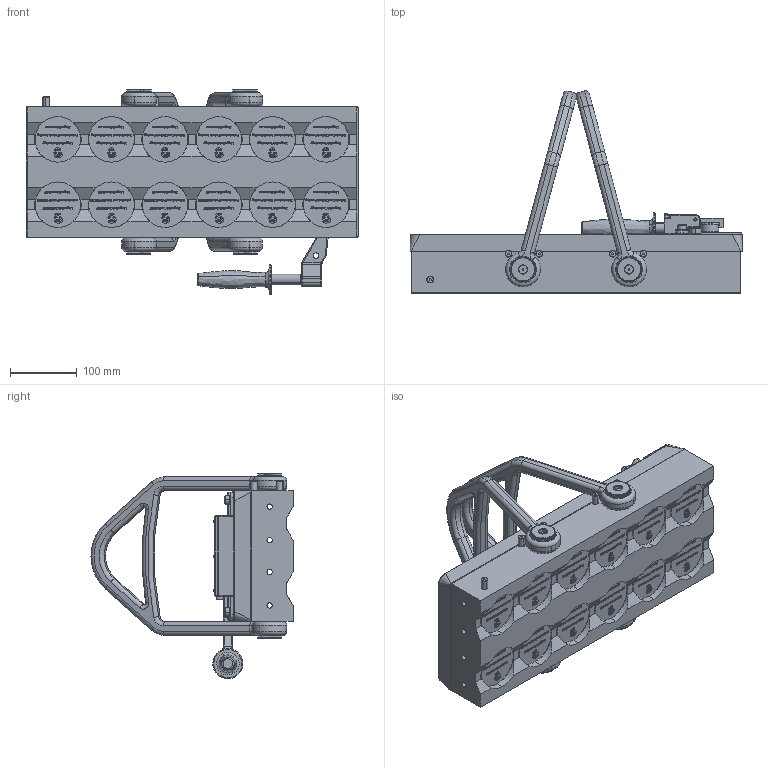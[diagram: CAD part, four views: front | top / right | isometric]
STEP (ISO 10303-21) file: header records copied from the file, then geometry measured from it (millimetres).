
FILE_DESCRIPTION (( 'STEP AP203' ), '1' );
FILE_NAME ('8000549_p.STEP', '2019-09-03T16:23:39', ( '' ), ( '' ), 'SwSTEP 2.0', 'SolidWorks 2018', '' );
FILE_SCHEMA (( 'CONFIG_CONTROL_DESIGN' ));
Products named in the file (1): 8000549_p
Bounding box: 496 x 302 x 306.78 mm (x, y, z)
Surface area: 619476.2 mm2 (no closed solid volume)
Topology: 0 solids, 516 shells, 3150 faces, 20025 edges, 17241 vertices
Faces by surface type: plane 1860, cylinder 512, bspline 504, torus 154, cone 106, sphere 14
Entity records: 287631 total; most frequent: CARTESIAN_POINT 154701, ORIENTED_EDGE 24010, DIRECTION 20477, EDGE_CURVE 20010, VERTEX_POINT 17241, VECTOR 11231, LINE 11231, B_SPLINE_CURVE_WITH_KNOTS 6720
